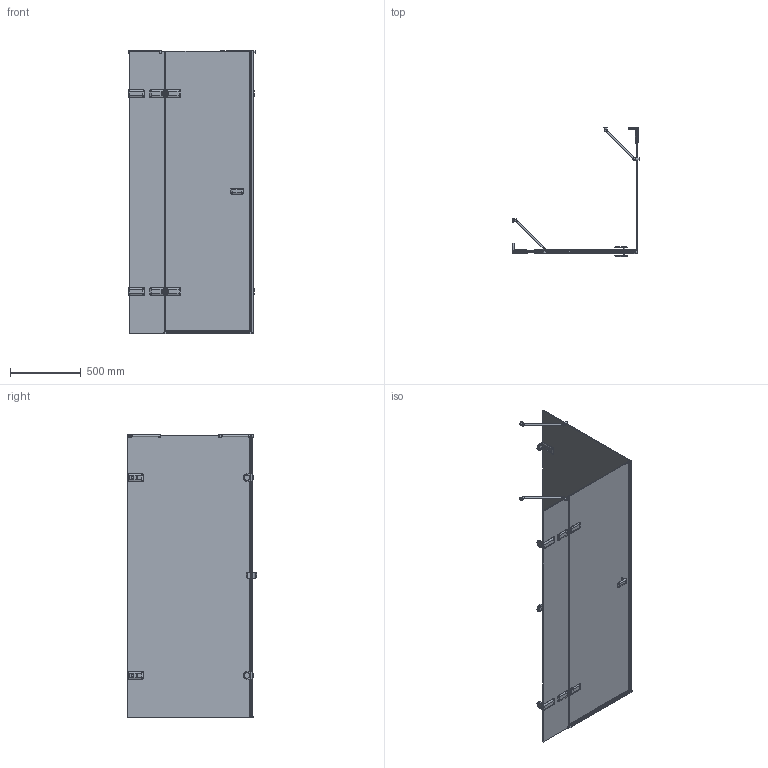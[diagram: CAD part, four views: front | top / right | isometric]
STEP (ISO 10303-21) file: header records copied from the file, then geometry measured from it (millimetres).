
FILE_DESCRIPTION(/* description */ (''),/* implementation_level */ '2;1');
FILE_NAME(/* name */ 'D:\!\!\TREND SQUARE GK-863TWO\TREND SQUARE GK-863TWO левая модель\TREND SQUARE GK-863TWO ЛЕВАЯ-3D.stp',/* time_stamp */ '2017-08-18T14:19:12+03:00',/* author */ ('ChechurovS'),/* organization */ (''),/* preprocessor_version */ 'ST-DEVELOPER v15.2',/* originating_system */ 'Autodesk Inventor 2014',/* authorisation */ '');
FILE_SCHEMA (('CONFIG_CONTROL_DESIGN'));
Products named in the file (1): TREND SQUARE GK-863TWO ЛЕВАЯ-3D
Bounding box: 894.5 x 913.5 x 2009.49 mm (x, y, z)
Volume: 22183094.3 mm3; surface area: 7552731 mm2
Topology: 18 solids, 18 shells, 1594 faces, 4173 edges, 2666 vertices
Faces by surface type: plane 936, cylinder 388, bspline 174, torus 53, cone 24, sphere 19
Full cylindrical faces by diameter (mm): 6 x4, 9 x8, 13 x4, 15 x2, 20 x4, 26 x2, 40 x4
Entity records: 70165 total; most frequent: CARTESIAN_POINT 30674, ORIENTED_EDGE 7938, DIRECTION 7621, EDGE_CURVE 3969, AXIS2_PLACEMENT_3D 2560, VERTEX_POINT 2514, LINE 2501, VECTOR 2501
